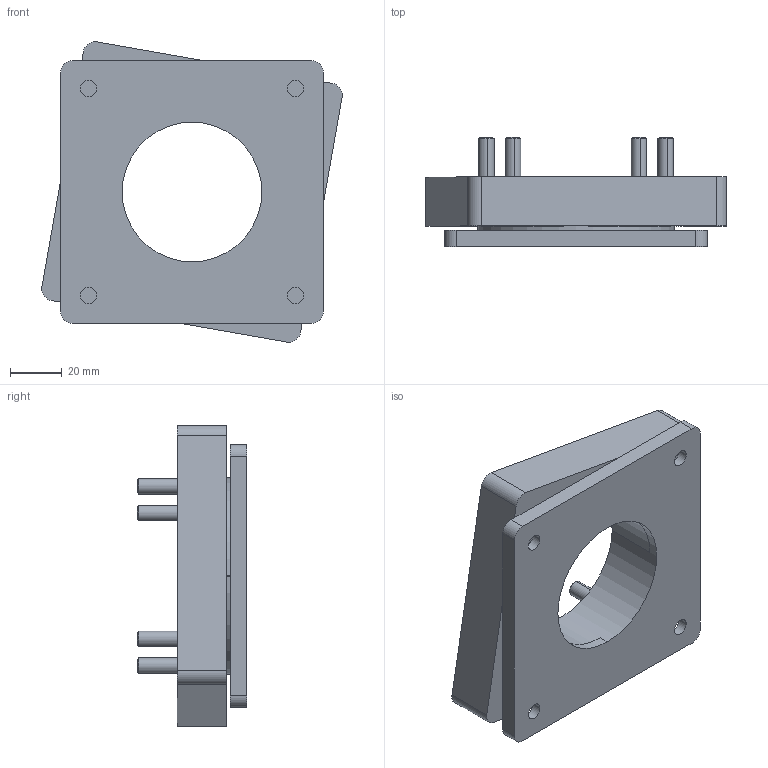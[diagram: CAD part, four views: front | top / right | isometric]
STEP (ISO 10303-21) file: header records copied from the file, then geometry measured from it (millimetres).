
FILE_DESCRIPTION((''),'1');
FILE_NAME('1','2001-04-17T',('jlue'),(''),'PRO/ENGINEER BY PARAMETRIC TECHNOLOGY CORPORATION, 9846','PRO/ENGINEER BY PARAMETRIC TECHNOLOGY CORPORATION, 9846','');
FILE_SCHEMA(('CONFIG_CONTROL_DESIGN'));
Length unit declared in the file: inch
Products named in the file (1): 1
Bounding box: 116.25 x 42.37 x 116.25 mm (x, y, z)
Surface area: 46034.9 mm2 (no closed solid volume)
Topology: 0 solids, 0 shells, 70 faces, 428 edges, 444 vertices
Faces by surface type: cylinder 36, plane 26, cone 8
Entity records: 2808 total; most frequent: CARTESIAN_POINT 958, DIRECTION 434, COMPOSITE_CURVE_SEGMENT 416, TRIMMED_CURVE 200, AXIS2_PLACEMENT_3D 164, VECTOR 106, LINE 106, CIRCLE 94
